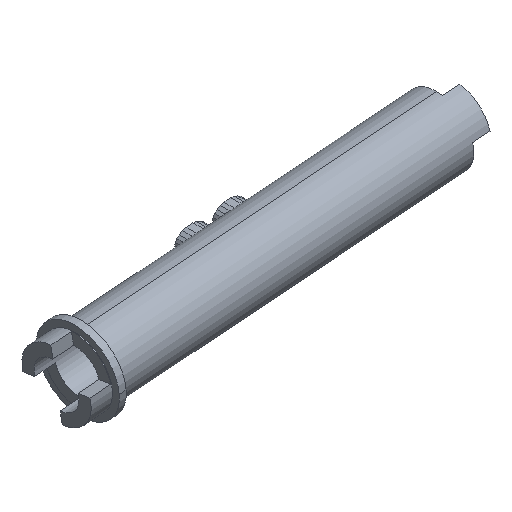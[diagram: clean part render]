
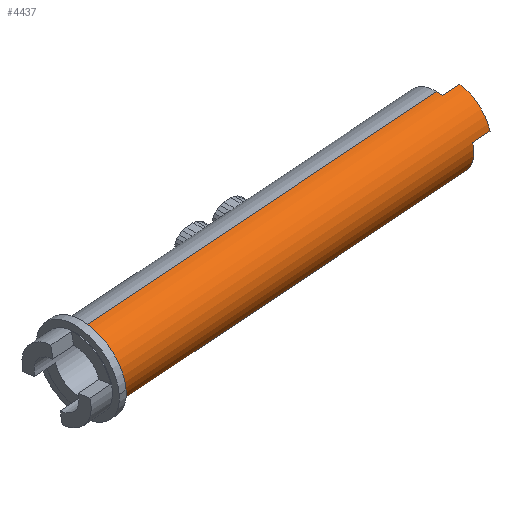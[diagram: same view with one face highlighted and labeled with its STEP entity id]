
A CAD part, isometric view. The second image highlights one B-rep face of the part: STEP entity #4437.
In plain terms, the highlighted cylindrical face has radius 5 mm (diameter 10 mm), a partial arc.
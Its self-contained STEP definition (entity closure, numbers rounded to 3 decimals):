
#15=CARTESIAN_POINT('',(714.725,0.,-132.314));
#16=DIRECTION('',(-0.997,0.,-0.077));
#17=DIRECTION('',(-0.076,-0.174,0.982));
#18=AXIS2_PLACEMENT_3D('',#15,#16,#17);
#43=CARTESIAN_POINT('',(714.725,0.,-132.314));
#44=DIRECTION('',(-0.997,0.,-0.077));
#45=DIRECTION('',(0.077,0.,-0.997));
#46=AXIS2_PLACEMENT_3D('',#43,#44,#45);
#655=DIRECTION('',(-0.997,0.,-0.077));
#656=VECTOR('',#655,51.516);
#657=CARTESIAN_POINT('',(714.339,0.,-127.329));
#658=LINE('',#657,#656);
#1622=CARTESIAN_POINT('',(663.363,0.,-136.294));
#1623=DIRECTION('',(-0.997,0.,-0.077));
#1624=DIRECTION('',(0.077,0.,-0.997));
#1625=AXIS2_PLACEMENT_3D('',#1622,#1623,#1624);
#1627=DIRECTION('',(0.997,0.,0.077));
#1628=VECTOR('',#1627,2.5);
#1629=CARTESIAN_POINT('',(714.345,-0.868,
-127.405));
#1630=LINE('',#1629,#1628);
#1631=DIRECTION('',(-0.997,0.,-0.077));
#1632=VECTOR('',#1631,51.516);
#1633=CARTESIAN_POINT('',(715.111,0.,-137.3));
#1634=LINE('',#1633,#1632);
#1717=DIRECTION('',(0.997,0.,0.077));
#1718=VECTOR('',#1717,2.5);
#1719=CARTESIAN_POINT('',(714.658,-4.924,
-131.449));
#1720=LINE('',#1719,#1718);
#1730=CARTESIAN_POINT('',(717.218,0.,-132.121));
#1731=DIRECTION('',(0.997,0.,0.077));
#1732=DIRECTION('',(-0.076,-0.174,0.982));
#1733=AXIS2_PLACEMENT_3D('',#1730,#1731,#1732);
#1811=CARTESIAN_POINT('',(716.837,-0.868,
-127.212));
#1812=CARTESIAN_POINT('',(717.15,-4.924,
-131.256));
#1813=VERTEX_POINT('',#1811);
#1814=VERTEX_POINT('',#1812);
#1815=CARTESIAN_POINT('',(714.345,-0.868,
-127.405));
#1816=VERTEX_POINT('',#1815);
#1817=CARTESIAN_POINT('',(714.658,-4.924,
-131.449));
#1818=VERTEX_POINT('',#1817);
#1823=CARTESIAN_POINT('',(714.339,0.,-127.329));
#1824=VERTEX_POINT('',#1823);
#1825=CARTESIAN_POINT('',(715.111,0.,-137.3));
#1826=VERTEX_POINT('',#1825);
#1977=CARTESIAN_POINT('',(662.977,0.,-131.309));
#1978=CARTESIAN_POINT('',(663.749,0.,-141.279));
#1979=VERTEX_POINT('',#1977);
#1980=VERTEX_POINT('',#1978);
#4419=CARTESIAN_POINT('',(714.725,0.,-132.314));
#4420=DIRECTION('',(-0.997,0.,-0.077));
#4421=DIRECTION('',(-0.077,0.,0.997));
#4422=AXIS2_PLACEMENT_3D('',#4419,#4420,#4421);
#4423=CYLINDRICAL_SURFACE('',#4422,5.);
#4424=ORIENTED_EDGE('',*,*,#4393,.T.);
#4425=ORIENTED_EDGE('',*,*,#2375,.F.);
#4426=ORIENTED_EDGE('',*,*,#2262,.F.);
#4428=ORIENTED_EDGE('',*,*,#4427,.T.);
#4430=ORIENTED_EDGE('',*,*,#4429,.T.);
#4432=ORIENTED_EDGE('',*,*,#4431,.F.);
#4433=ORIENTED_EDGE('',*,*,#2282,.F.);
#4434=ORIENTED_EDGE('',*,*,#2366,.T.);
#4435=EDGE_LOOP('',(#4424,#4425,#4426,#4428,#4430,#4432,#4433,#4434));
#4436=FACE_OUTER_BOUND('',#4435,.F.);
#4437=ADVANCED_FACE('',(#4436),#4423,.T.);
#19=CIRCLE('',#18,5.);
#47=CIRCLE('',#46,5.);
#1626=CIRCLE('',#1625,5.);
#1734=CIRCLE('',#1733,5.);
#2262=EDGE_CURVE('',#1816,#1824,#19,.T.);
#2282=EDGE_CURVE('',#1826,#1818,#47,.T.);
#2366=EDGE_CURVE('',#1826,#1980,#1634,.T.);
#2375=EDGE_CURVE('',#1824,#1979,#658,.T.);
#4393=EDGE_CURVE('',#1980,#1979,#1626,.T.);
#4427=EDGE_CURVE('',#1816,#1813,#1630,.T.);
#4429=EDGE_CURVE('',#1813,#1814,#1734,.T.);
#4431=EDGE_CURVE('',#1818,#1814,#1720,.T.);
